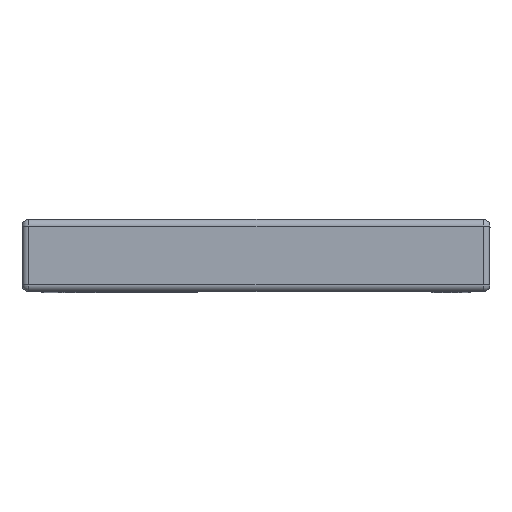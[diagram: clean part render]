
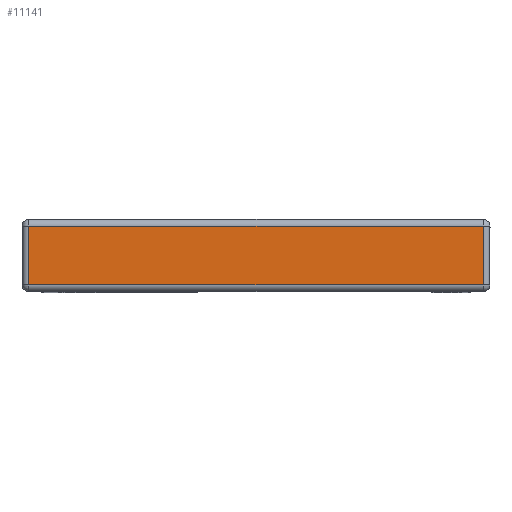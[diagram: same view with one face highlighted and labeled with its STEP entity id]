
A CAD part, top view. The second image highlights one B-rep face of the part: STEP entity #11141.
In plain terms, the highlighted planar face has unit normal (0, 0, 1).
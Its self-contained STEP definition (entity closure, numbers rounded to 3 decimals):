
#155=DIRECTION('',(1.,0.,0.));
#156=VECTOR('',#155,13.9);
#157=CARTESIAN_POINT('',(-6.95,-0.9,0.));
#158=LINE('',#157,#156);
#328=DIRECTION('',(0.,1.,0.));
#329=VECTOR('',#328,1.8);
#330=CARTESIAN_POINT('',(6.95,-0.9,0.));
#331=LINE('',#330,#329);
#374=DIRECTION('',(-1.,0.,0.));
#375=VECTOR('',#374,13.9);
#376=CARTESIAN_POINT('',(6.95,0.9,0.));
#377=LINE('',#376,#375);
#2429=DIRECTION('',(0.,-1.,0.));
#2430=VECTOR('',#2429,1.8);
#2431=CARTESIAN_POINT('',(-6.95,0.9,0.));
#2432=LINE('',#2431,#2430);
#7563=CARTESIAN_POINT('',(6.95,-0.9,0.));
#7564=VERTEX_POINT('',#7563);
#7565=CARTESIAN_POINT('',(-6.95,-0.9,0.));
#7566=VERTEX_POINT('',#7565);
#7586=CARTESIAN_POINT('',(-6.95,0.9,0.));
#7587=VERTEX_POINT('',#7586);
#7588=CARTESIAN_POINT('',(6.95,0.9,0.));
#7589=VERTEX_POINT('',#7588);
#11130=CARTESIAN_POINT('',(-7.15,-1.1,0.));
#11131=DIRECTION('',(0.,0.,1.));
#11132=DIRECTION('',(1.,0.,0.));
#11133=AXIS2_PLACEMENT_3D('',#11130,#11131,#11132);
#11134=PLANE('',#11133);
#11135=ORIENTED_EDGE('',*,*,#8754,.F.);
#11136=ORIENTED_EDGE('',*,*,#8507,.F.);
#11137=ORIENTED_EDGE('',*,*,#11065,.F.);
#11138=ORIENTED_EDGE('',*,*,#8812,.F.);
#11139=EDGE_LOOP('',(#11135,#11136,#11137,#11138));
#11140=FACE_OUTER_BOUND('',#11139,.F.);
#11141=ADVANCED_FACE('',(#11140),#11134,.T.);
#8507=EDGE_CURVE('',#7566,#7564,#158,.T.);
#8754=EDGE_CURVE('',#7564,#7589,#331,.T.);
#8812=EDGE_CURVE('',#7589,#7587,#377,.T.);
#11065=EDGE_CURVE('',#7587,#7566,#2432,.T.);
